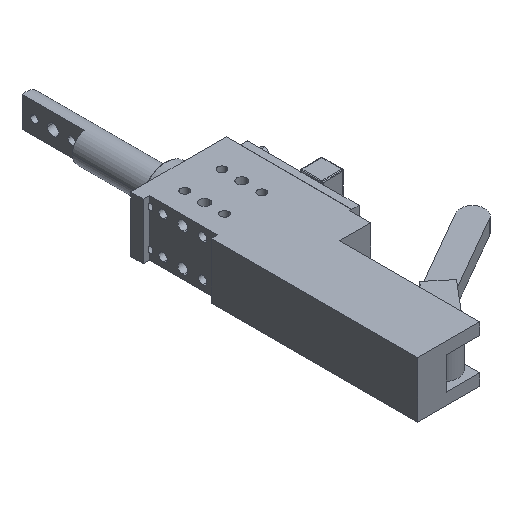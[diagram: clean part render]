
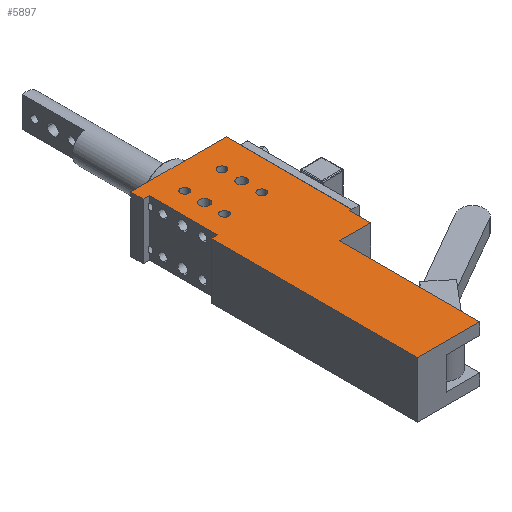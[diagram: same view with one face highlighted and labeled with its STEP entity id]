
A CAD part, isometric view. The second image highlights one B-rep face of the part: STEP entity #5897.
In plain terms, the highlighted planar face has unit normal (0, 0, 1).
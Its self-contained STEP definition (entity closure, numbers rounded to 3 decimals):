
#869=CARTESIAN_POINT('',(35.997,-69.021,128.24));
#870=VERTEX_POINT('',#869);
#886=CARTESIAN_POINT('',(29.35,-69.021,128.24));
#887=VERTEX_POINT('',#886);
#894=CARTESIAN_POINT('',(32.673,-69.021,128.24));
#895=DIRECTION('',(0.0,0.0,-1.0));
#896=DIRECTION('',(1.0,0.0,0.0));
#897=AXIS2_PLACEMENT_3D('',#894,#895,#896);
#898=CIRCLE('',#897,3.324);
#899=EDGE_CURVE('',#870,#887,#898,.T.);
#982=CARTESIAN_POINT('',(35.997,-37.021,128.24));
#983=VERTEX_POINT('',#982);
#999=CARTESIAN_POINT('',(29.35,-37.021,128.24));
#1000=VERTEX_POINT('',#999);
#1007=CARTESIAN_POINT('',(32.673,-37.021,128.24));
#1008=DIRECTION('',(0.0,0.0,-1.0));
#1009=DIRECTION('',(1.0,0.0,0.0));
#1010=AXIS2_PLACEMENT_3D('',#1007,#1008,#1009);
#1011=CIRCLE('',#1010,3.324);
#1012=EDGE_CURVE('',#983,#1000,#1011,.T.);
#1095=CARTESIAN_POINT('',(5.997,-37.021,128.24));
#1096=VERTEX_POINT('',#1095);
#1112=CARTESIAN_POINT('',(-0.65,-37.021,128.24));
#1113=VERTEX_POINT('',#1112);
#1120=CARTESIAN_POINT('',(2.673,-37.021,128.24));
#1121=DIRECTION('',(0.0,0.0,-1.0));
#1122=DIRECTION('',(1.0,0.0,0.0));
#1123=AXIS2_PLACEMENT_3D('',#1120,#1121,#1122);
#1124=CIRCLE('',#1123,3.324);
#1125=EDGE_CURVE('',#1096,#1113,#1124,.T.);
#1208=CARTESIAN_POINT('',(5.997,-69.021,128.24));
#1209=VERTEX_POINT('',#1208);
#1225=CARTESIAN_POINT('',(-0.65,-69.021,128.24));
#1226=VERTEX_POINT('',#1225);
#1233=CARTESIAN_POINT('',(2.673,-69.021,128.24));
#1234=DIRECTION('',(0.0,0.0,-1.0));
#1235=DIRECTION('',(1.0,0.0,0.0));
#1236=AXIS2_PLACEMENT_3D('',#1233,#1234,#1235);
#1237=CIRCLE('',#1236,3.324);
#1238=EDGE_CURVE('',#1209,#1226,#1237,.T.);
#1321=CARTESIAN_POINT('',(36.673,-53.021,128.24));
#1322=VERTEX_POINT('',#1321);
#1338=CARTESIAN_POINT('',(28.673,-53.021,128.24));
#1339=VERTEX_POINT('',#1338);
#1346=CARTESIAN_POINT('',(32.673,-53.021,128.24));
#1347=DIRECTION('',(0.0,0.0,-1.0));
#1348=DIRECTION('',(1.0,0.0,0.0));
#1349=AXIS2_PLACEMENT_3D('',#1346,#1347,#1348);
#1350=CIRCLE('',#1349,4.0);
#1351=EDGE_CURVE('',#1322,#1339,#1350,.T.);
#1434=CARTESIAN_POINT('',(6.673,-53.021,128.24));
#1435=VERTEX_POINT('',#1434);
#1451=CARTESIAN_POINT('',(-1.327,-53.021,128.24));
#1452=VERTEX_POINT('',#1451);
#1459=CARTESIAN_POINT('',(2.673,-53.021,128.24));
#1460=DIRECTION('',(0.0,0.0,-1.0));
#1461=DIRECTION('',(1.0,0.0,0.0));
#1462=AXIS2_PLACEMENT_3D('',#1459,#1460,#1461);
#1463=CIRCLE('',#1462,4.0);
#1464=EDGE_CURVE('',#1435,#1452,#1463,.T.);
#3438=CARTESIAN_POINT('',(30.173,-247.021,128.24));
#3439=VERTEX_POINT('',#3438);
#3446=CARTESIAN_POINT('',(-19.827,-247.021,128.24));
#3447=VERTEX_POINT('',#3446);
#3448=CARTESIAN_POINT('',(-19.827,-247.021,128.24));
#3449=DIRECTION('',(1.0,0.0,0.0));
#3450=VECTOR('',#3449,50.);
#3451=LINE('',#3448,#3450);
#3452=EDGE_CURVE('',#3447,#3439,#3451,.T.);
#3494=CARTESIAN_POINT('',(30.173,-134.021,128.24));
#3495=VERTEX_POINT('',#3494);
#3502=CARTESIAN_POINT('',(30.173,-247.021,128.24));
#3503=DIRECTION('',(0.0,1.0,0.0));
#3504=VECTOR('',#3503,113.0);
#3505=LINE('',#3502,#3504);
#3506=EDGE_CURVE('',#3439,#3495,#3505,.T.);
#3649=CARTESIAN_POINT('',(55.173,-134.021,128.24));
#3650=VERTEX_POINT('',#3649);
#3657=CARTESIAN_POINT('',(30.173,-134.021,128.24));
#3658=DIRECTION('',(1.0,0.0,0.0));
#3659=VECTOR('',#3658,25.);
#3660=LINE('',#3657,#3659);
#3661=EDGE_CURVE('',#3495,#3650,#3660,.T.);
#3681=CARTESIAN_POINT('',(55.173,-117.021,128.24));
#3682=VERTEX_POINT('',#3681);
#3689=CARTESIAN_POINT('',(55.173,-134.021,128.24));
#3690=DIRECTION('',(0.0,1.0,0.0));
#3691=VECTOR('',#3690,17.);
#3692=LINE('',#3689,#3691);
#3693=EDGE_CURVE('',#3650,#3682,#3692,.T.);
#4368=CARTESIAN_POINT('',(-14.827,-81.021,128.24));
#4369=VERTEX_POINT('',#4368);
#4376=CARTESIAN_POINT('',(-14.827,-26.021,128.24));
#4377=VERTEX_POINT('',#4376);
#4378=CARTESIAN_POINT('',(-14.827,-26.021,128.24));
#4379=DIRECTION('',(0.0,-1.0,0.0));
#4380=VECTOR('',#4379,55.);
#4381=LINE('',#4378,#4380);
#4382=EDGE_CURVE('',#4377,#4369,#4381,.T.);
#4948=CARTESIAN_POINT('',(2.673,-53.021,128.24));
#4949=DIRECTION('',(0.0,0.0,-1.0));
#4950=DIRECTION('',(1.0,0.0,0.0));
#4951=AXIS2_PLACEMENT_3D('',#4948,#4949,#4950);
#4952=CIRCLE('',#4951,4.0);
#4953=EDGE_CURVE('',#1452,#1435,#4952,.T.);
#5019=CARTESIAN_POINT('',(32.673,-53.021,128.24));
#5020=DIRECTION('',(0.0,0.0,-1.0));
#5021=DIRECTION('',(1.0,0.0,0.0));
#5022=AXIS2_PLACEMENT_3D('',#5019,#5020,#5021);
#5023=CIRCLE('',#5022,4.0);
#5024=EDGE_CURVE('',#1339,#1322,#5023,.T.);
#5090=CARTESIAN_POINT('',(2.673,-69.021,128.24));
#5091=DIRECTION('',(0.0,0.0,-1.0));
#5092=DIRECTION('',(1.0,0.0,0.0));
#5093=AXIS2_PLACEMENT_3D('',#5090,#5091,#5092);
#5094=CIRCLE('',#5093,3.324);
#5095=EDGE_CURVE('',#1226,#1209,#5094,.T.);
#5161=CARTESIAN_POINT('',(2.673,-37.021,128.24));
#5162=DIRECTION('',(0.0,0.0,-1.0));
#5163=DIRECTION('',(1.0,0.0,0.0));
#5164=AXIS2_PLACEMENT_3D('',#5161,#5162,#5163);
#5165=CIRCLE('',#5164,3.324);
#5166=EDGE_CURVE('',#1113,#1096,#5165,.T.);
#5232=CARTESIAN_POINT('',(32.673,-37.021,128.24));
#5233=DIRECTION('',(0.0,0.0,-1.0));
#5234=DIRECTION('',(1.0,0.0,0.0));
#5235=AXIS2_PLACEMENT_3D('',#5232,#5233,#5234);
#5236=CIRCLE('',#5235,3.324);
#5237=EDGE_CURVE('',#1000,#983,#5236,.T.);
#5303=CARTESIAN_POINT('',(32.673,-69.021,128.24));
#5304=DIRECTION('',(0.0,0.0,-1.0));
#5305=DIRECTION('',(1.0,0.0,0.0));
#5306=AXIS2_PLACEMENT_3D('',#5303,#5304,#5305);
#5307=CIRCLE('',#5306,3.324);
#5308=EDGE_CURVE('',#887,#870,#5307,.T.);
#5766=CARTESIAN_POINT('',(-19.827,-26.021,128.24));
#5767=VERTEX_POINT('',#5766);
#5768=CARTESIAN_POINT('',(-19.827,-26.021,128.24));
#5769=DIRECTION('',(1.0,0.0,0.0));
#5770=VECTOR('',#5769,5.);
#5771=LINE('',#5768,#5770);
#5772=EDGE_CURVE('',#5767,#4377,#5771,.T.);
#5797=CARTESIAN_POINT('',(-19.827,-81.021,128.24));
#5798=VERTEX_POINT('',#5797);
#5799=CARTESIAN_POINT('',(-14.827,-81.021,128.24));
#5800=DIRECTION('',(-1.0,0.0,0.0));
#5801=VECTOR('',#5800,5.);
#5802=LINE('',#5799,#5801);
#5803=EDGE_CURVE('',#4369,#5798,#5802,.T.);
#5823=CARTESIAN_POINT('',(18.673,-66.521,128.24));
#5824=DIRECTION('',(0.0,0.0,1.0));
#5825=DIRECTION('',(1.0,0.0,0.0));
#5826=AXIS2_PLACEMENT_3D('',#5823,#5824,#5825);
#5827=PLANE('',#5826);
#5828=ORIENTED_EDGE('',*,*,#5772,.T.);
#5829=ORIENTED_EDGE('',*,*,#4382,.T.);
#5830=ORIENTED_EDGE('',*,*,#5803,.T.);
#5831=CARTESIAN_POINT('',(-19.827,-247.021,128.24));
#5832=DIRECTION('',(0.0,1.0,0.0));
#5833=VECTOR('',#5832,166.0);
#5834=LINE('',#5831,#5833);
#5835=EDGE_CURVE('',#3447,#5798,#5834,.T.);
#5836=ORIENTED_EDGE('',*,*,#5835,.F.);
#5837=ORIENTED_EDGE('',*,*,#3452,.T.);
#5838=ORIENTED_EDGE('',*,*,#3506,.T.);
#5839=ORIENTED_EDGE('',*,*,#3661,.T.);
#5840=ORIENTED_EDGE('',*,*,#3693,.T.);
#5841=CARTESIAN_POINT('',(57.173,-117.021,128.24));
#5842=VERTEX_POINT('',#5841);
#5843=CARTESIAN_POINT('',(57.173,-117.021,128.24));
#5844=DIRECTION('',(-1.0,0.0,0.0));
#5845=VECTOR('',#5844,2.);
#5846=LINE('',#5843,#5845);
#5847=EDGE_CURVE('',#5842,#3682,#5846,.T.);
#5848=ORIENTED_EDGE('',*,*,#5847,.F.);
#5849=CARTESIAN_POINT('',(57.173,-16.021,128.24));
#5850=VERTEX_POINT('',#5849);
#5851=CARTESIAN_POINT('',(57.173,-16.021,128.24));
#5852=DIRECTION('',(0.0,-1.0,0.0));
#5853=VECTOR('',#5852,101.0);
#5854=LINE('',#5851,#5853);
#5855=EDGE_CURVE('',#5850,#5842,#5854,.T.);
#5856=ORIENTED_EDGE('',*,*,#5855,.F.);
#5857=CARTESIAN_POINT('',(-19.827,-16.021,128.24));
#5858=VERTEX_POINT('',#5857);
#5859=CARTESIAN_POINT('',(-19.827,-16.021,128.24));
#5860=DIRECTION('',(1.0,0.0,0.0));
#5861=VECTOR('',#5860,77.);
#5862=LINE('',#5859,#5861);
#5863=EDGE_CURVE('',#5858,#5850,#5862,.T.);
#5864=ORIENTED_EDGE('',*,*,#5863,.F.);
#5865=CARTESIAN_POINT('',(-19.827,-26.021,128.24));
#5866=DIRECTION('',(0.0,1.0,0.0));
#5867=VECTOR('',#5866,10.0);
#5868=LINE('',#5865,#5867);
#5869=EDGE_CURVE('',#5767,#5858,#5868,.T.);
#5870=ORIENTED_EDGE('',*,*,#5869,.F.);
#5871=EDGE_LOOP('',(#5828,#5829,#5830,#5836,#5837,#5838,#5839,#5840,#5848,#5856,#5864,#5870));
#5872=FACE_OUTER_BOUND('',#5871,.T.);
#5873=ORIENTED_EDGE('',*,*,#1464,.T.);
#5874=ORIENTED_EDGE('',*,*,#4953,.T.);
#5875=EDGE_LOOP('',(#5873,#5874));
#5876=FACE_BOUND('',#5875,.T.);
#5877=ORIENTED_EDGE('',*,*,#1351,.T.);
#5878=ORIENTED_EDGE('',*,*,#5024,.T.);
#5879=EDGE_LOOP('',(#5877,#5878));
#5880=FACE_BOUND('',#5879,.T.);
#5881=ORIENTED_EDGE('',*,*,#1238,.T.);
#5882=ORIENTED_EDGE('',*,*,#5095,.T.);
#5883=EDGE_LOOP('',(#5881,#5882));
#5884=FACE_BOUND('',#5883,.T.);
#5885=ORIENTED_EDGE('',*,*,#1125,.T.);
#5886=ORIENTED_EDGE('',*,*,#5166,.T.);
#5887=EDGE_LOOP('',(#5885,#5886));
#5888=FACE_BOUND('',#5887,.T.);
#5889=ORIENTED_EDGE('',*,*,#1012,.T.);
#5890=ORIENTED_EDGE('',*,*,#5237,.T.);
#5891=EDGE_LOOP('',(#5889,#5890));
#5892=FACE_BOUND('',#5891,.T.);
#5893=ORIENTED_EDGE('',*,*,#899,.T.);
#5894=ORIENTED_EDGE('',*,*,#5308,.T.);
#5895=EDGE_LOOP('',(#5893,#5894));
#5896=FACE_BOUND('',#5895,.T.);
#5897=ADVANCED_FACE('',(#5872,#5876,#5880,#5884,#5888,#5892,#5896),#5827,.T.);
